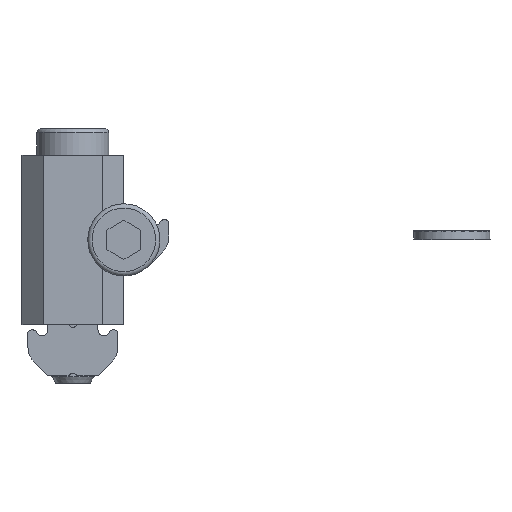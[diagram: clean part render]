
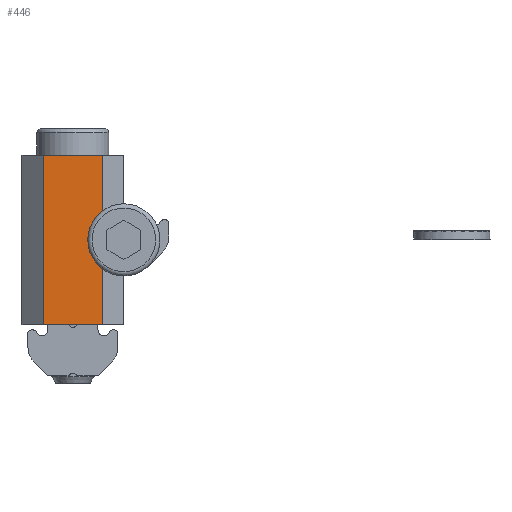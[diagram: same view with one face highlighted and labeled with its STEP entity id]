
A CAD part, left-side view. The second image highlights one B-rep face of the part: STEP entity #446.
In plain terms, the highlighted planar face has unit normal (-1, 0, 0).
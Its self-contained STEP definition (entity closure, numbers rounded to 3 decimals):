
#446 = ADVANCED_FACE( '', ( #1039 ), #1040, .F. );
#1039 = FACE_OUTER_BOUND( '', #1791, .T. );
#1040 = PLANE( '', #1792 );
#1791 = EDGE_LOOP( '', ( #2979, #2980, #2981, #2982 ) );
#1792 = AXIS2_PLACEMENT_3D( '', #2983, #2984, #2985 );
#2979 = ORIENTED_EDGE( '', *, *, #5004, .F. );
#2980 = ORIENTED_EDGE( '', *, *, #4781, .T. );
#2981 = ORIENTED_EDGE( '', *, *, #5005, .T. );
#2982 = ORIENTED_EDGE( '', *, *, #4914, .T. );
#2983 = CARTESIAN_POINT( '', ( -16., 12., -10. ) );
#2984 = DIRECTION( '', ( 1., 0., 0. ) );
#2985 = DIRECTION( '', ( 0., 0., -1. ) );
#4781 = EDGE_CURVE( '', #5863, #5860, #5864, .T. );
#4914 = EDGE_CURVE( '', #6087, #6089, #6091, .T. );
#5004 = EDGE_CURVE( '', #5863, #6089, #6237, .T. );
#5005 = EDGE_CURVE( '', #5860, #6087, #6238, .T. );
#5860 = VERTEX_POINT( '', #7543 );
#5863 = VERTEX_POINT( '', #7547 );
#5864 = LINE( '', #7548, #7549 );
#6087 = VERTEX_POINT( '', #7851 );
#6089 = VERTEX_POINT( '', #7854 );
#6091 = LINE( '', #7857, #7858 );
#6237 = LINE( '', #8080, #8081 );
#6238 = LINE( '', #8082, #8083 );
#7543 = CARTESIAN_POINT( '', ( -16., 9.5, -10. ) );
#7547 = CARTESIAN_POINT( '', ( -16., 9.5, 10. ) );
#7548 = CARTESIAN_POINT( '', ( -16., 9.5, -10. ) );
#7549 = VECTOR( '', #9284, 1000. );
#7851 = CARTESIAN_POINT( '', ( -16., 2.5, -10. ) );
#7854 = CARTESIAN_POINT( '', ( -16., 2.5, 10. ) );
#7857 = CARTESIAN_POINT( '', ( -16., 2.5, -10. ) );
#7858 = VECTOR( '', #9435, 1000. );
#8080 = CARTESIAN_POINT( '', ( -16., 12., 10. ) );
#8081 = VECTOR( '', #9548, 1000. );
#8082 = CARTESIAN_POINT( '', ( -16., 12., -10. ) );
#8083 = VECTOR( '', #9549, 1000. );
#9284 = DIRECTION( '', ( 0., 0., -1. ) );
#9435 = DIRECTION( '', ( 0., 0., 1. ) );
#9548 = DIRECTION( '', ( 0., -1., 0. ) );
#9549 = DIRECTION( '', ( 0., -1., 0. ) );
